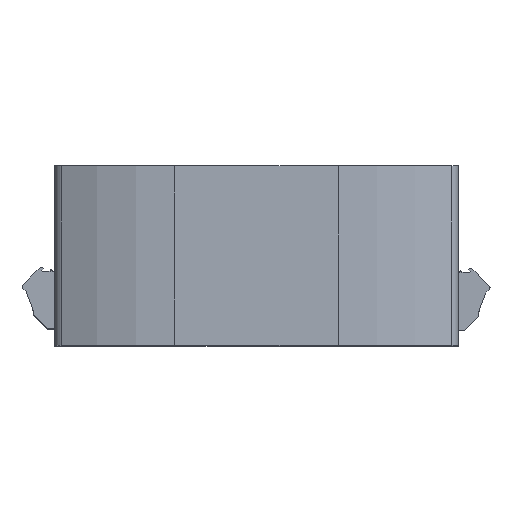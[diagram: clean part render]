
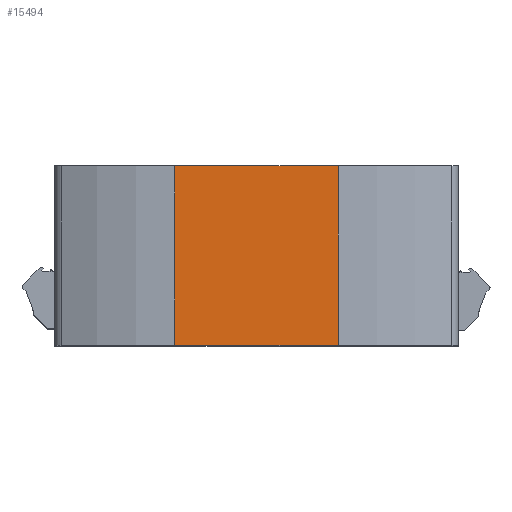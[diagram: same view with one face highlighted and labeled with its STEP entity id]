
A CAD part, top view. The second image highlights one B-rep face of the part: STEP entity #15494.
In plain terms, the highlighted planar face has unit normal (0, 0, 1).
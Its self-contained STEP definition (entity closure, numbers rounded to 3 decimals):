
#2244=FACE_OUTER_BOUND('',#3102,.T.);
#3102=EDGE_LOOP('',(#14110,#14111,#14112,#14113,#14114));
#4312=LINE('',#24574,#5911);
#4437=LINE('',#24871,#6036);
#4696=LINE('',#25517,#6295);
#4700=LINE('',#25528,#6299);
#4701=LINE('',#25529,#6300);
#5911=VECTOR('',#20214,10.);
#6036=VECTOR('',#20413,10.);
#6295=VECTOR('',#21174,10.);
#6299=VECTOR('',#21190,10.);
#6300=VECTOR('',#21191,10.);
#7406=VERTEX_POINT('',#24571);
#7407=VERTEX_POINT('',#24573);
#7541=VERTEX_POINT('',#24868);
#7542=VERTEX_POINT('',#24870);
#7679=VERTEX_POINT('',#25527);
#9332=EDGE_CURVE('',#7406,#7407,#4312,.T.);
#9480=EDGE_CURVE('',#7541,#7542,#4437,.T.);
#9819=EDGE_CURVE('',#7407,#7541,#4696,.T.);
#9823=EDGE_CURVE('',#7679,#7542,#4700,.T.);
#9824=EDGE_CURVE('',#7679,#7406,#4701,.T.);
#14110=ORIENTED_EDGE('',*,*,#9819,.F.);
#14111=ORIENTED_EDGE('',*,*,#9332,.F.);
#14112=ORIENTED_EDGE('',*,*,#9824,.F.);
#14113=ORIENTED_EDGE('',*,*,#9823,.T.);
#14114=ORIENTED_EDGE('',*,*,#9480,.F.);
#14695=PLANE('',#16885);
#15494=ADVANCED_FACE('',(#2244),#14695,.T.);
#16885=AXIS2_PLACEMENT_3D('',#25530,#21192,#21193);
#20214=DIRECTION('',(1.,0.,0.));
#20413=DIRECTION('',(-1.,0.,0.));
#21174=DIRECTION('',(0.,-1.,0.));
#21190=DIRECTION('',(0.,-1.,0.));
#21191=DIRECTION('',(0.,1.,0.));
#21192=DIRECTION('center_axis',(0.,0.,1.));
#21193=DIRECTION('ref_axis',(-1.,0.,0.));
#24571=CARTESIAN_POINT('',(-20.5,32.,120.));
#24573=CARTESIAN_POINT('',(20.5,32.,120.));
#24574=CARTESIAN_POINT('',(-50.5,32.,120.));
#24868=CARTESIAN_POINT('',(20.5,-13.,120.));
#24870=CARTESIAN_POINT('',(-20.5,-13.,120.));
#24871=CARTESIAN_POINT('',(-50.5,-13.,120.));
#25517=CARTESIAN_POINT('',(20.5,-13.,120.));
#25527=CARTESIAN_POINT('',(-20.5,10.,120.));
#25528=CARTESIAN_POINT('',(-20.5,-13.,120.));
#25529=CARTESIAN_POINT('',(-20.5,10.,120.));
#25530=CARTESIAN_POINT('Origin',(50.5,10.,120.));
